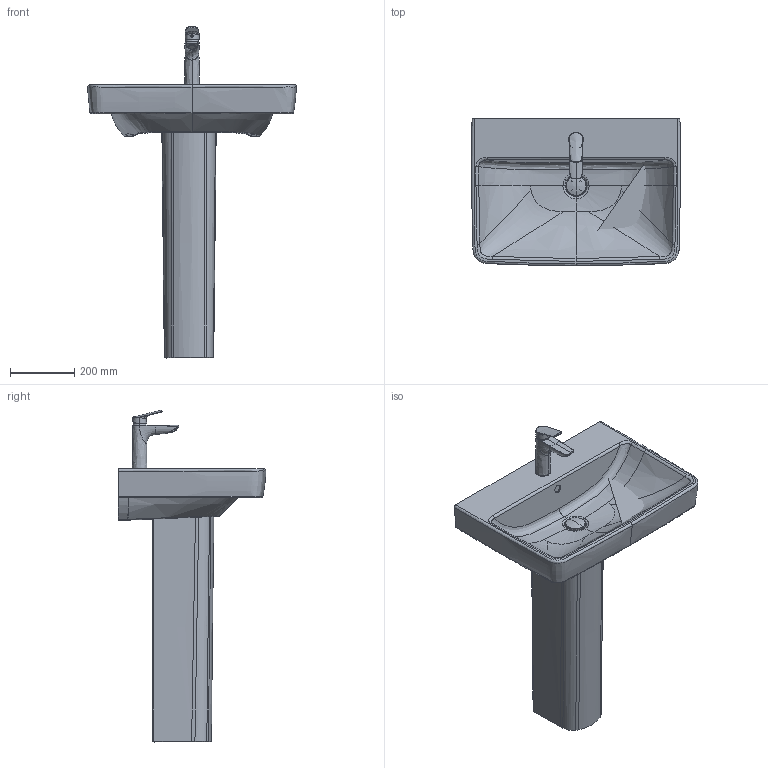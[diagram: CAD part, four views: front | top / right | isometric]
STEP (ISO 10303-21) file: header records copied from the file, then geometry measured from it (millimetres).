
FILE_DESCRIPTION(/* description */ (''),/* implementation_level */ '2;1');
FILE_NAME(/* name */ '237565_085844',/* time_stamp */ '2021-09-20T14:54:33+02:00',/* author */ (''),/* organization */ (''),/* preprocessor_version */ 'ST-DEVELOPER v15',/* originating_system */ '',/* authorisation */ '');
FILE_SCHEMA (('AUTOMOTIVE_DESIGN'));
Length unit declared in the file: millimetre
Products named in the file (1): Document
Bounding box: 649.92 x 460.1 x 1032.97 mm (x, y, z)
Volume: 22377808 mm3; surface area: 1854096.6 mm2
Topology: 7 solids, 10 shells, 593 faces, 1416 edges, 843 vertices
Faces by surface type: bspline 505, plane 88
Entity records: 110955 total; most frequent: CARTESIAN_POINT 102366, ORIENTED_EDGE 2798, EDGE_CURVE 1408, B_SPLINE_CURVE_WITH_KNOTS 1093, VERTEX_POINT 843, EDGE_LOOP 623, ADVANCED_FACE 592, FACE_OUTER_BOUND 592
